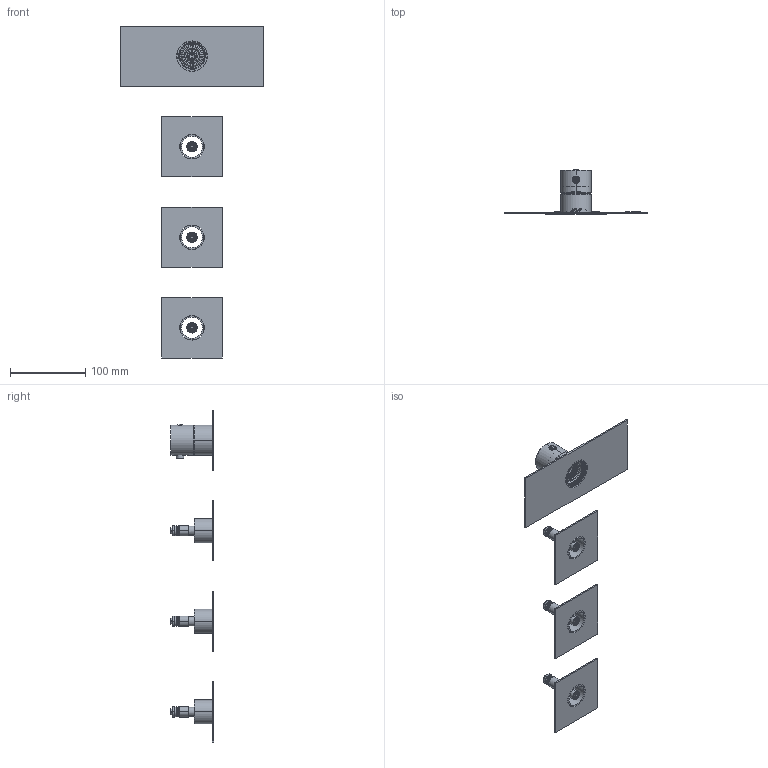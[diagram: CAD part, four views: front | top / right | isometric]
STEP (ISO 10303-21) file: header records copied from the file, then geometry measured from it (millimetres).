
FILE_DESCRIPTION((''),'2;1');
FILE_NAME('3D_SW0001','2026-05-18T10:45:40',('volponeff'),(''),'CREO PARAMETRIC BY PTC INC, 2025443','CREO PARAMETRIC BY PTC INC, 2025443','');
FILE_SCHEMA(('CONFIG_CONTROL_DESIGN'));
Products named in the file (1): 3D_SW0001
Bounding box: 190 x 58.1 x 440 mm (x, y, z)
Volume: 127957 mm3; surface area: 119923.9 mm2
Topology: 13 solids, 13 shells, 1700 faces, 4353 edges, 2780 vertices
Faces by surface type: plane 1021, cylinder 341, cone 167, torus 91, bspline 70, sphere 10
Entity records: 75109 total; most frequent: CARTESIAN_POINT 34917, ORIENTED_EDGE 8690, DIRECTION 7672, EDGE_CURVE 4345, VECTOR 2810, LINE 2810, VERTEX_POINT 2778, AXIS2_PLACEMENT_3D 2431
